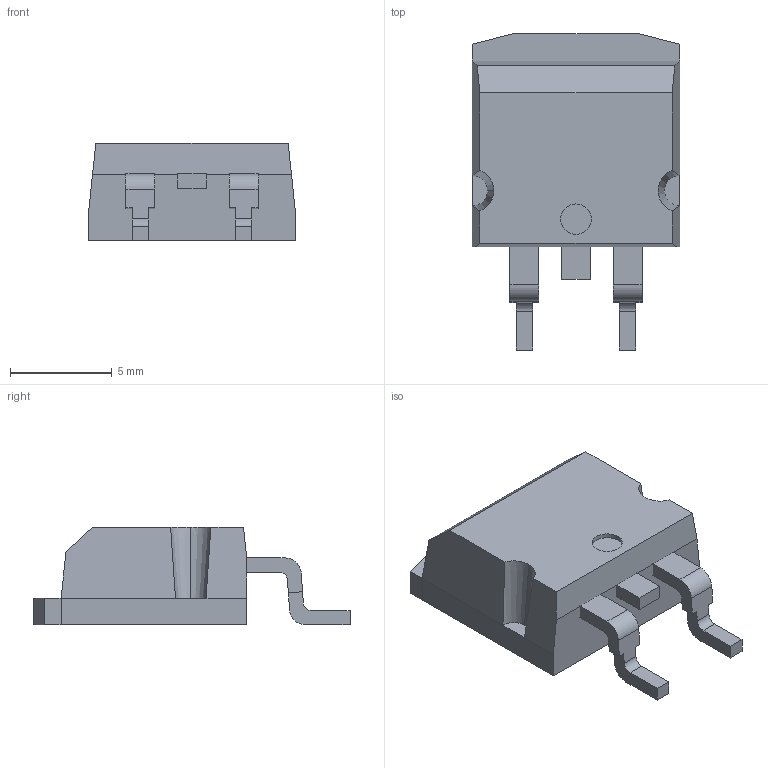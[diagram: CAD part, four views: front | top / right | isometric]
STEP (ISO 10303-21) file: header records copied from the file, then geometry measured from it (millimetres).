
FILE_DESCRIPTION (( 'STEP AP214' ), '1' );
FILE_NAME ('STH315N10F7-2.STEP', '2023-04-26T04:41:49', ( '' ), ( '' ), 'SwSTEP 2.0', 'SolidWorks 2022', '' );
FILE_SCHEMA (( 'AUTOMOTIVE_DESIGN' ));
Length unit declared in the file: millimetre
Products named in the file (6): tab; pin1; pin3; pin2; base; STH315N10F7-2
Assembly tree (5 placements, depth 2):
  STH315N10F7-2
    tab
    pin1
    pin3
    base
    pin2
Bounding box: 10.2 x 15.55 x 4.8 mm (x, y, z)
Volume: 448.8 mm3; surface area: 626.9 mm2
Topology: 5 solids, 5 shells, 80 faces, 199 edges, 130 vertices
Faces by surface type: plane 67, cylinder 10, cone 3
Entity records: 3467 total; most frequent: CARTESIAN_POINT 429, ORIENTED_EDGE 398, DIRECTION 397, EDGE_CURVE 199, LINE 169, VECTOR 169, VERTEX_POINT 130, AXIS2_PLACEMENT_3D 114
